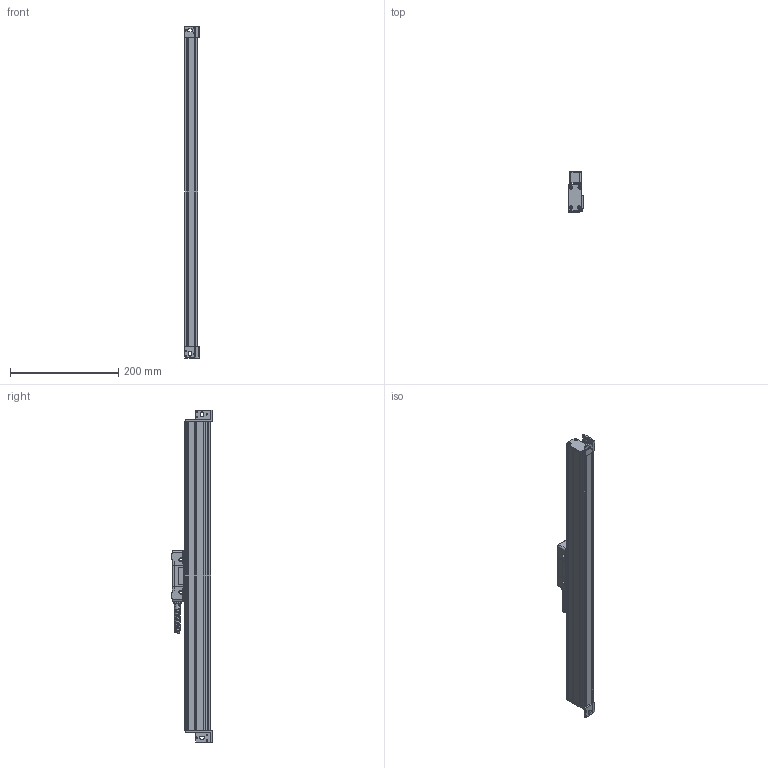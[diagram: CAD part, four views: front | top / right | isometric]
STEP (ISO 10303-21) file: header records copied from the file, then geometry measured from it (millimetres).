
FILE_DESCRIPTION (( 'STEP AP214' ), '1' );
FILE_NAME ('MLC310x0450.STEP', '2021-05-08T11:49:23', ( '' ), ( '' ), 'SwSTEP 2.0', 'SolidWorks 2014', '' );
FILE_SCHEMA (( 'AUTOMOTIVE_DESIGN' ));
Length unit declared in the file: millimetre
Products named in the file (1): MLC310x0450
Bounding box: 27 x 75.15 x 614 mm (x, y, z)
Surface area: 117666.4 mm2 (no closed solid volume)
Topology: 0 solids, 24 shells, 450 faces, 1442 edges, 1008 vertices
Faces by surface type: plane 185, cylinder 145, cone 81, bspline 29, torus 10
Entity records: 31296 total; most frequent: CARTESIAN_POINT 13993, DIRECTION 2516, ORIENTED_EDGE 2329, EDGE_CURVE 1436, VERTEX_POINT 1008, AXIS2_PLACEMENT_3D 873, VECTOR 770, LINE 770
